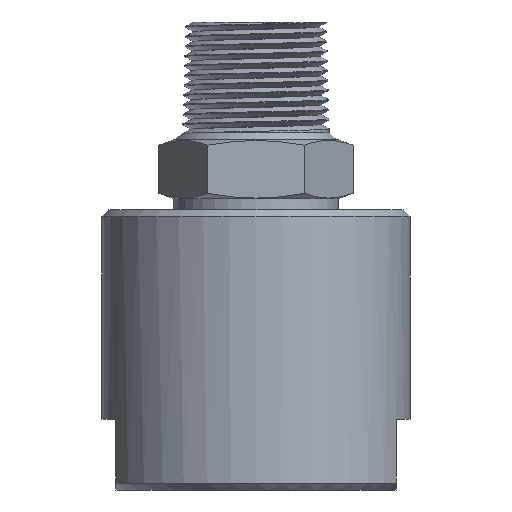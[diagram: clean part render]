
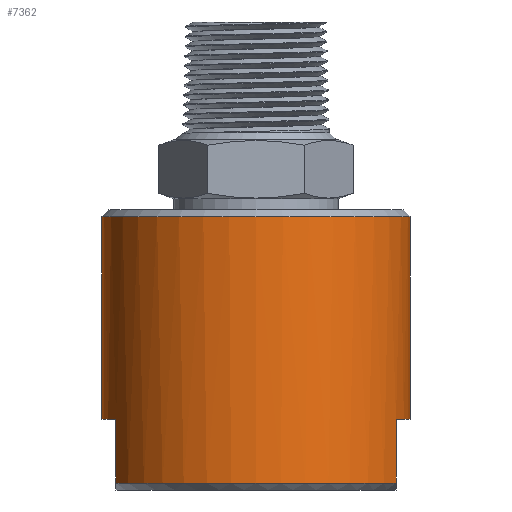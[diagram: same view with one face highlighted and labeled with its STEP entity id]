
A CAD part, left-side view. The second image highlights one B-rep face of the part: STEP entity #7362.
In plain terms, the highlighted cylindrical face has radius 34.925 mm (diameter 69.85 mm), a partial arc.
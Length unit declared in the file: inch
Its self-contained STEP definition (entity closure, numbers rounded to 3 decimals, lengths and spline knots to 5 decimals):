
#62 = B_SPLINE_CURVE_WITH_KNOTS ( 'NONE', 3,
 ( #251, #240, #242, #252, #253, #254, #255, #256, #257, #258 ),
 .UNSPECIFIED., .F., .F.,
 ( 4, 2, 2, 2, 4 ),
 ( 0., 0.25, 0.5, 0.75, 1. ),
 .UNSPECIFIED. ) ;
#240 = CARTESIAN_POINT ( 'NONE',  ( -0.00856, -1.375, -2.7675 ) ) ;
#242 = CARTESIAN_POINT ( 'NONE',  ( -0.01588, -1.37492, -2.76447 ) ) ;
#251 = CARTESIAN_POINT ( 'NONE',  ( 0., -1.375, -2.7675 ) ) ;
#252 = CARTESIAN_POINT ( 'NONE',  ( -0.02797, -1.37473, -2.75237 ) ) ;
#253 = CARTESIAN_POINT ( 'NONE',  ( -0.031, -1.37465, -2.74507 ) ) ;
#254 = CARTESIAN_POINT ( 'NONE',  ( -0.031, -1.37465, -2.72795 ) ) ;
#255 = CARTESIAN_POINT ( 'NONE',  ( -0.02798, -1.37473, -2.72064 ) ) ;
#256 = CARTESIAN_POINT ( 'NONE',  ( -0.01587, -1.37492, -2.70853 ) ) ;
#257 = CARTESIAN_POINT ( 'NONE',  ( -0.00856, -1.375, -2.7055 ) ) ;
#258 = CARTESIAN_POINT ( 'NONE',  ( 0., -1.375, -2.7055 ) ) ;
#495 = ORIENTED_EDGE ( 'NONE', *, *, #3238, .T. ) ;
#497 = ORIENTED_EDGE ( 'NONE', *, *, #8262, .T. ) ;
#665 = CARTESIAN_POINT ( 'NONE',  ( 0., 1.375, -1.739 ) ) ;
#681 = LINE ( 'NONE', #745, #9689 ) ;
#745 = CARTESIAN_POINT ( 'NONE',  ( -0.57282, -1.25, -3.547 ) ) ;
#746 = DIRECTION ( 'NONE',  ( 0., 0., -1. ) ) ;
#1643 = VERTEX_POINT ( 'NONE', #665 ) ;
#1756 = CARTESIAN_POINT ( 'NONE',  ( 0., 0., -3.547 ) ) ;
#3234 = EDGE_CURVE ( 'NONE', #11416, #6675, #681, .T. ) ;
#3235 = EDGE_CURVE ( 'NONE', #11035, #11416, #9599, .T. ) ;
#3238 = EDGE_CURVE ( 'NONE', #5256, #1643, #9724, .T. ) ;
#5256 = VERTEX_POINT ( 'NONE', #11268 ) ;
#5374 = AXIS2_PLACEMENT_3D ( 'NONE', #12829, #12826, #12831 ) ;
#6675 = VERTEX_POINT ( 'NONE', #7698 ) ;
#7103 = LINE ( 'NONE', #7104, #9137 ) ;
#7104 = CARTESIAN_POINT ( 'NONE',  ( 0., -1.375, -1.35043 ) ) ;
#7105 = DIRECTION ( 'NONE',  ( 0., 0., 1. ) ) ;
#7106 = LINE ( 'NONE', #7107, #9129 ) ;
#7107 = CARTESIAN_POINT ( 'NONE',  ( 0., -1.375, -1.35043 ) ) ;
#7109 = DIRECTION ( 'NONE',  ( 0., 0., 1. ) ) ;
#7135 = CARTESIAN_POINT ( 'NONE',  ( 0., 0., -4.115 ) ) ;
#7137 = DIRECTION ( 'NONE',  ( 0., 0., 1. ) ) ;
#7139 = DIRECTION ( 'NONE',  ( 0., -1., 0. ) ) ;
#7166 = EDGE_CURVE ( 'NONE', #11417, #11395, #62, .T. ) ;
#7231 = CARTESIAN_POINT ( 'NONE',  ( 0., 0., -3.547 ) ) ;
#7233 = DIRECTION ( 'NONE',  ( 0., 0., -1. ) ) ;
#7235 = DIRECTION ( 'NONE',  ( 1., 0., 0. ) ) ;
#7362 = ADVANCED_FACE ( 'NONE', ( #12828 ), #12827, .T. ) ;
#7503 = CARTESIAN_POINT ( 'NONE',  ( -0.57282, 1.25, -4.115 ) ) ;
#7506 = CARTESIAN_POINT ( 'NONE',  ( 0., -1.375, -3.547 ) ) ;
#7599 = CARTESIAN_POINT ( 'NONE',  ( 0., 1.375, -3.547 ) ) ;
#7612 = CARTESIAN_POINT ( 'NONE',  ( -0.57282, 1.25, -3.547 ) ) ;
#7698 = CARTESIAN_POINT ( 'NONE',  ( -0.57282, -1.25, -4.115 ) ) ;
#7739 = CARTESIAN_POINT ( 'NONE',  ( 0., -1.375, -2.7055 ) ) ;
#7774 = CARTESIAN_POINT ( 'NONE',  ( -0.57282, -1.25, -3.547 ) ) ;
#7776 = CARTESIAN_POINT ( 'NONE',  ( 0., -1.375, -2.7675 ) ) ;
#8206 = LINE ( 'NONE', #8208, #9183 ) ;
#8208 = CARTESIAN_POINT ( 'NONE',  ( -0.57282, 1.25, -3.547 ) ) ;
#8209 = DIRECTION ( 'NONE',  ( 0., 0., -1. ) ) ;
#8211 = LINE ( 'NONE', #8214, #9184 ) ;
#8214 = CARTESIAN_POINT ( 'NONE',  ( 0., 1.375, -1.35043 ) ) ;
#8216 = DIRECTION ( 'NONE',  ( 0., 0., 1. ) ) ;
#8261 = EDGE_CURVE ( 'NONE', #11035, #11417, #7103, .T. ) ;
#8262 = EDGE_CURVE ( 'NONE', #11395, #5256, #7106, .T. ) ;
#8266 = EDGE_CURVE ( 'NONE', #11032, #6675, #9142, .T. ) ;
#9073 = EDGE_CURVE ( 'NONE', #11381, #11087, #9161, .T. ) ;
#9129 = VECTOR ( 'NONE', #7109, 39.37008 ) ;
#9137 = VECTOR ( 'NONE', #7105, 39.37008 ) ;
#9142 = CIRCLE ( 'NONE', #9145, 1.375 ) ;
#9145 = AXIS2_PLACEMENT_3D ( 'NONE', #7135, #7137, #7139 ) ;
#9161 = CIRCLE ( 'NONE', #9165, 1.375 ) ;
#9165 = AXIS2_PLACEMENT_3D ( 'NONE', #7231, #7233, #7235 ) ;
#9183 = VECTOR ( 'NONE', #8209, 39.37008 ) ;
#9184 = VECTOR ( 'NONE', #8216, 39.37008 ) ;
#9596 = AXIS2_PLACEMENT_3D ( 'NONE', #11101, #11102, #11103 ) ;
#9599 = CIRCLE ( 'NONE', #9712, 1.375 ) ;
#9689 = VECTOR ( 'NONE', #746, 39.37008 ) ;
#9712 = AXIS2_PLACEMENT_3D ( 'NONE', #1756, #11095, #11096 ) ;
#9724 = CIRCLE ( 'NONE', #9596, 1.375 ) ;
#10925 = EDGE_LOOP ( 'NONE', ( #10961, #10962, #10963, #10964, #10965, #10966, #10967, #10968, #497, #495 ) ) ;
#10961 = ORIENTED_EDGE ( 'NONE', *, *, #13122, .F. ) ;
#10962 = ORIENTED_EDGE ( 'NONE', *, *, #9073, .F. ) ;
#10963 = ORIENTED_EDGE ( 'NONE', *, *, #13121, .T. ) ;
#10964 = ORIENTED_EDGE ( 'NONE', *, *, #8266, .T. ) ;
#10965 = ORIENTED_EDGE ( 'NONE', *, *, #3234, .F. ) ;
#10966 = ORIENTED_EDGE ( 'NONE', *, *, #3235, .F. ) ;
#10967 = ORIENTED_EDGE ( 'NONE', *, *, #8261, .T. ) ;
#10968 = ORIENTED_EDGE ( 'NONE', *, *, #7166, .T. ) ;
#11032 = VERTEX_POINT ( 'NONE', #7503 ) ;
#11035 = VERTEX_POINT ( 'NONE', #7506 ) ;
#11087 = VERTEX_POINT ( 'NONE', #7599 ) ;
#11095 = DIRECTION ( 'NONE',  ( 0., 0., -1. ) ) ;
#11096 = DIRECTION ( 'NONE',  ( 1., 0., 0. ) ) ;
#11101 = CARTESIAN_POINT ( 'NONE',  ( 0., 0., -1.739 ) ) ;
#11102 = DIRECTION ( 'NONE',  ( 0., 0., -1. ) ) ;
#11103 = DIRECTION ( 'NONE',  ( 0., 1., 0. ) ) ;
#11268 = CARTESIAN_POINT ( 'NONE',  ( 0., -1.375, -1.739 ) ) ;
#11381 = VERTEX_POINT ( 'NONE', #7612 ) ;
#11395 = VERTEX_POINT ( 'NONE', #7739 ) ;
#11416 = VERTEX_POINT ( 'NONE', #7774 ) ;
#11417 = VERTEX_POINT ( 'NONE', #7776 ) ;
#12826 = DIRECTION ( 'NONE',  ( 0., 0., 1. ) ) ;
#12827 = CYLINDRICAL_SURFACE ( 'NONE', #5374, 1.375 ) ;
#12828 = FACE_OUTER_BOUND ( 'NONE', #10925, .T. ) ;
#12829 = CARTESIAN_POINT ( 'NONE',  ( 0., 0., -1.35043 ) ) ;
#12831 = DIRECTION ( 'NONE',  ( 0., -1., 0. ) ) ;
#13121 = EDGE_CURVE ( 'NONE', #11381, #11032, #8206, .T. ) ;
#13122 = EDGE_CURVE ( 'NONE', #11087, #1643, #8211, .T. ) ;
